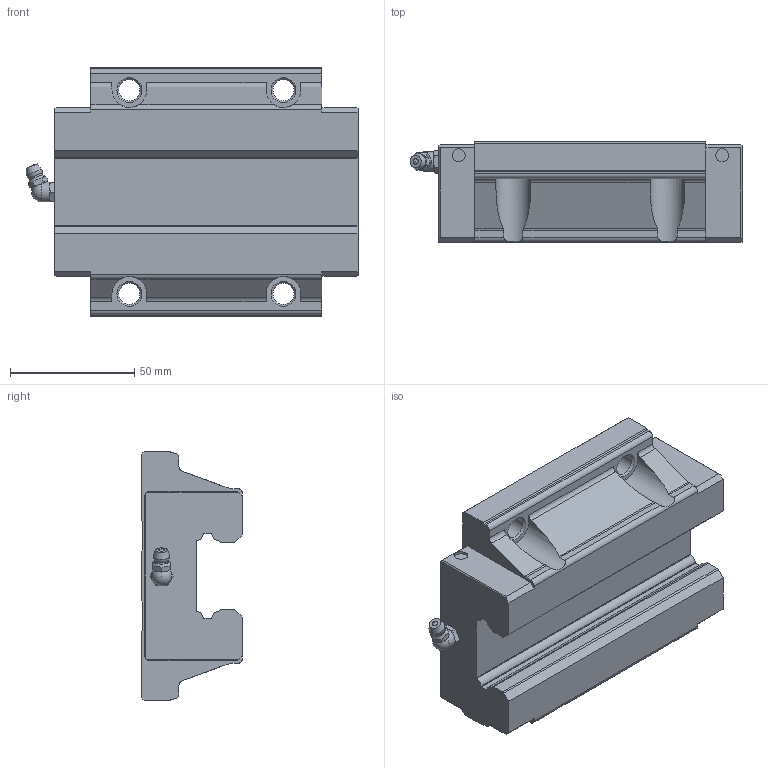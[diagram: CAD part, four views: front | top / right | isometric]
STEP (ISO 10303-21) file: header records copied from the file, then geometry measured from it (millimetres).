
FILE_DESCRIPTION(/* description */ ('STEP AP214'),/* implementation_level */ '2;1');
FILE_NAME(/* name */ 'SHS35C1SS(GK) BLOCK(B-M6F1)',/* time_stamp */ '2023-05-26T08:30:35+02:00',/* author */ ('License CC BY-ND 4.0'),/* organization */ ('CADENAS'),/* preprocessor_version */ 'ST-DEVELOPER v19.3',/* originating_system */ 'PARTsolutions',/* authorisation */ ' ');
FILE_SCHEMA (('AUTOMOTIVE_DESIGN {1 0 10303 214 3 1 1}'));
Length unit declared in the file: millimetre
Products named in the file (3): SHS35C1SS(GK) BLOCK(B-M6F1); B-M6F-SHS_grease_nipple_joint; SHS35CSSB-M6F1 Slide25-55
Assembly tree (2 placements, depth 2):
  SHS35C1SS(GK) BLOCK(B-M6F1)
    B-M6F-SHS_grease_nipple_joint
    SHS35CSSB-M6F1 Slide25-55
Bounding box: 133.6 x 40.5 x 100 mm (x, y, z)
Volume: 322253.6 mm3; surface area: 43937.8 mm2
Topology: 2 solids, 2 shells, 174 faces, 480 edges, 315 vertices
Faces by surface type: plane 98, cylinder 50, cone 21, sphere 3, torus 2
Full cylindrical faces by diameter (mm): 4.917 x2, 5.2 x4, 6 x1, 8 x1, 8.5 x4
Entity records: 5417 total; most frequent: CARTESIAN_POINT 1074, DIRECTION 876, ORIENTED_EDGE 864, EDGE_CURVE 432, AXIS2_PLACEMENT_3D 303, VERTEX_POINT 301, LINE 270, VECTOR 270
